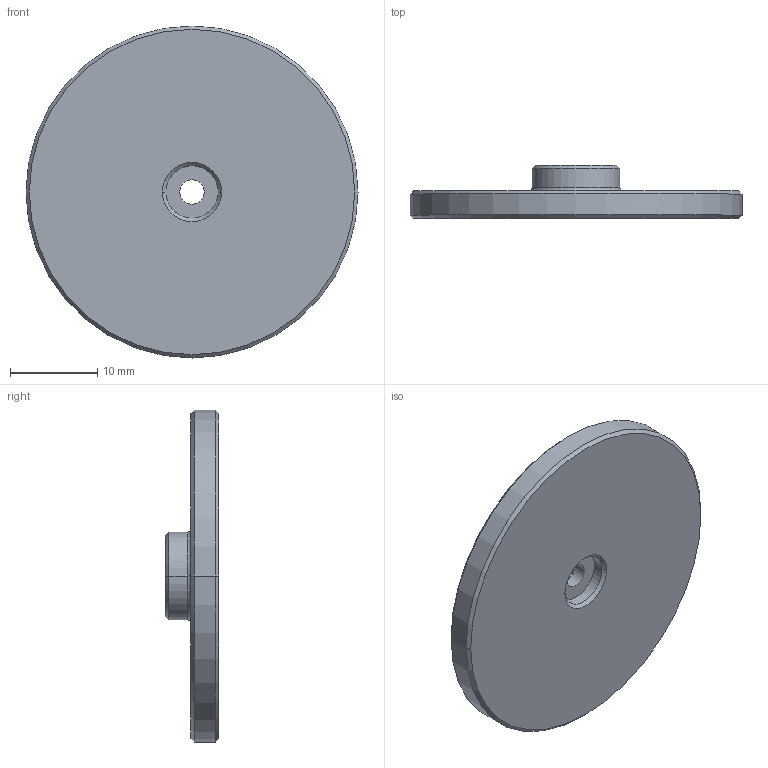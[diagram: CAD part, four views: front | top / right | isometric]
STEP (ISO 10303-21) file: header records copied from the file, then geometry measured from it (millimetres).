
FILE_DESCRIPTION((''),'2;1');
FILE_NAME('SF-1510_000','2016-10-24T',('salvagp'),(''),'CREO PARAMETRIC BY PTC INC, 2016130','CREO PARAMETRIC BY PTC INC, 2016130','');
FILE_SCHEMA(('CONFIG_CONTROL_DESIGN'));
Length unit declared in the file: inch
Products named in the file (1): SF-1510_000
Bounding box: 38.1 x 6.1 x 38.1 mm (x, y, z)
Volume: 3708.5 mm3; surface area: 2778.8 mm2
Topology: 1 solids, 1 shells, 71 faces, 188 edges, 122 vertices
Faces by surface type: plane 53, cone 8, cylinder 8, torus 2
Entity records: 2214 total; most frequent: CARTESIAN_POINT 381, ORIENTED_EDGE 376, DIRECTION 358, EDGE_CURVE 188, VECTOR 160, LINE 160, VERTEX_POINT 122, AXIS2_PLACEMENT_3D 99
